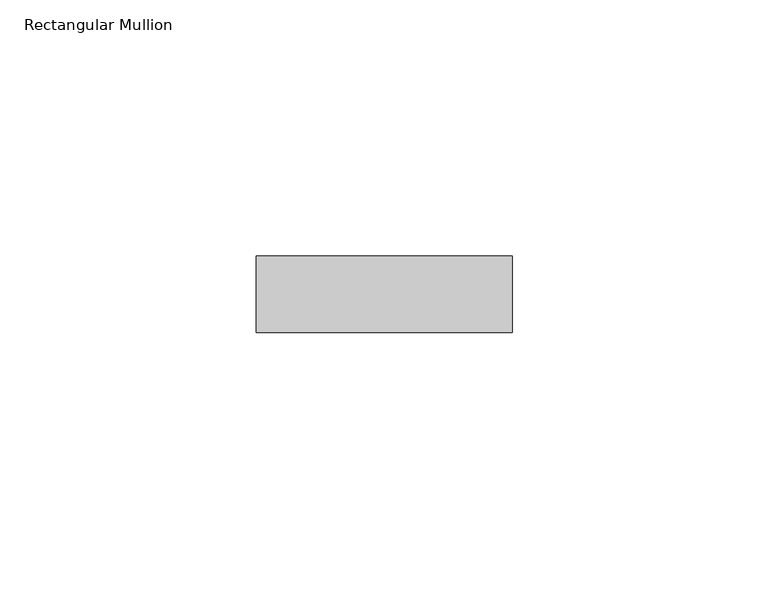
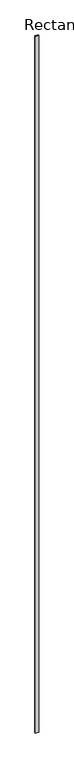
"""IFC4 building model written with IfcOpenShell, lengths in millimetres: member geometry, Rectangular Mullion : Ripa."""

from ifc_helpers import new_model, si_unit, frame, origin, place, context, project, spatial, polyline, outline, extrude, source, transform, mapped, element, save


def rectangular_mullion_e3c31ba7(model_context):
    return source(origin(), model_context, "Body", "SweptSolid", [
        extrude(outline(polyline([(-50.0, -75.0), (-50.0, -60.0), (0.0, -60.0), (0.0, -75.0), (-50.0, -75.0)])), frame((0.0, 0.0, -11499.6172534), z_axis=(0.0, 0.0, 1.0), x_axis=(1.0, 0.0, 0.0)), (0.0, 0.0, 1.0), 11499.6172534),
    ])


if __name__ == "__main__":
    model = new_model("IFC4")
    model_context = context("Model", 3, world=origin())
    ifc_project = project(units=[si_unit("LENGTHUNIT", "METRE", prefix="MILLI")], contexts=[model_context])
    site = spatial("IfcSite", under=ifc_project)
    building = spatial("IfcBuilding", under=site)
    placement = place(None, origin())
    rectangular_mullion_shape = rectangular_mullion_e3c31ba7(model_context)
    element("IfcMember", 1, ObjectType="Rectangular Mullion : Ripa", at=placement, inside=building, context=model_context, shape_type="MappedRepresentation", body=[
        mapped(rectangular_mullion_shape, transform((0.0, 0.0, 0.0), x_axis=(1.0, 0.0, 0.0), y_axis=(0.0, 1.0, 0.0), z_axis=(0.0, 0.0, 1.0))),
    ])
    save(model, "model.ifc")
